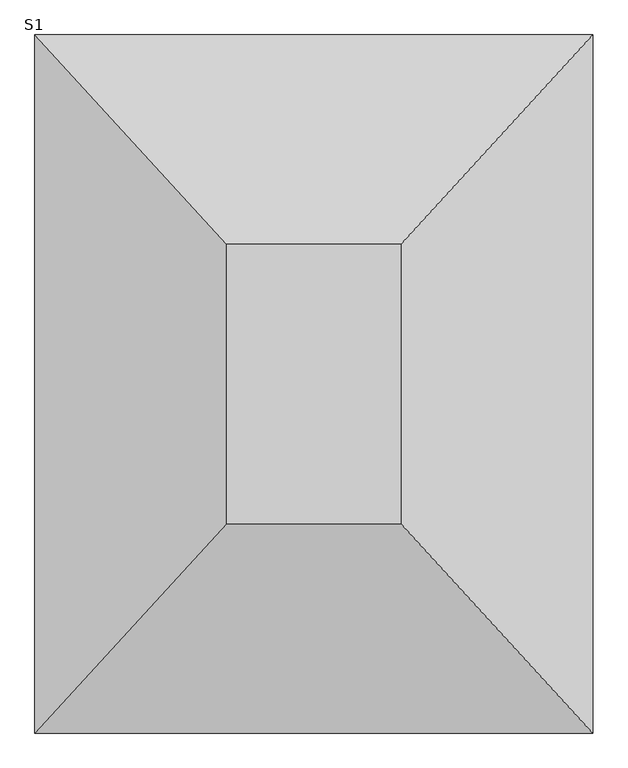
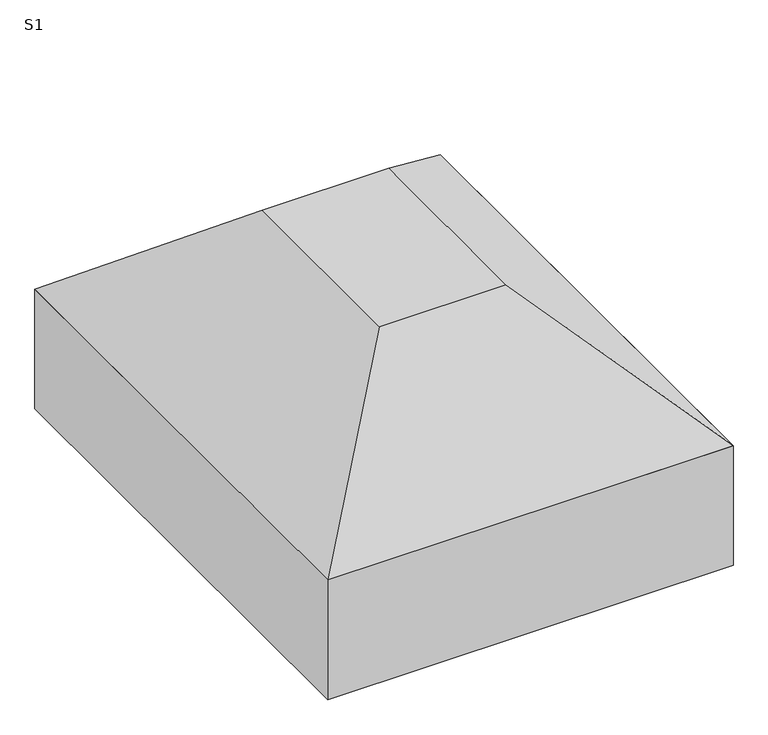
"""IFC4 building model written with IfcOpenShell, lengths in millimetres: fastener geometry, S1."""

import ifcopenshell
import ifcopenshell.guid

model = None  # the IFC model being written
_history = None  # IfcOwnerHistory: only IFC2X3 demands one
_inside = {}  # id of a spatial element -> (the spatial element, [elements in it])
_under = {}  # id of a project, library or spatial element -> (it, [spatial elements below it])
_declared = {}  # id of a project -> (the project, [libraries it declares])
_typed = {}  # id of a type object -> (the type object, [elements of that type])
_made_of = {}  # id of a material, layer set ... -> (it, [elements and type objects made of it])


def new_model(schema):
    """Start an empty IFC model of exactly this schema.

    Asked for "IFC4X3", IfcOpenShell would pick the latest addendum, in which some entities
    have other attributes; the version numbers below select the first issue.
    IFC2X3 requires an IfcOwnerHistory on every rooted entity: one is made here for all.
    """
    global model, _history
    if schema == "IFC4X3":
        model = ifcopenshell.file(schema_version=(4, 3, 0, 0))
    else:
        model = ifcopenshell.file(schema=schema)
    _inside.clear()
    _under.clear()
    _declared.clear()
    _typed.clear()
    _made_of.clear()
    _history = None
    if model.schema == "IFC2X3":
        org = make("IfcOrganization", Name="unknown")
        user = make(
            "IfcPersonAndOrganization",
            ThePerson=make("IfcPerson", FamilyName="unknown"),
            TheOrganization=org,
        )
        app = make(
            "IfcApplication",
            ApplicationDeveloper=org,
            Version="unknown",
            ApplicationFullName="unknown",
            ApplicationIdentifier="unknown",
        )
        _history = make(
            "IfcOwnerHistory",
            OwningUser=user,
            OwningApplication=app,
            ChangeAction="ADDED",
            CreationDate=0,
        )
    return model


def make(cls, **values):
    """One entity of the class cls with the attributes given. An attribute that is None is left unset."""
    return model.create_entity(
        cls, **{name: value for name, value in values.items() if value is not None}
    )


def rooted(cls, **values):
    """An entity with a GlobalId (a new one), such as an element, a storey or a relation."""
    return make(cls, GlobalId=ifcopenshell.guid.new(), OwnerHistory=_history, **values)


def si_unit(unit_type, name, prefix=None):
    """IfcSIUnit, for example si_unit("LENGTHUNIT", "METRE", prefix="MILLI")."""
    return make("IfcSIUnit", UnitType=unit_type, Prefix=prefix, Name=name)


def assignment(units):
    """IfcUnitAssignment: the units of a project."""
    return None if units is None else make("IfcUnitAssignment", Units=units)


def point(xyz):
    """IfcCartesianPoint."""
    return None if xyz is None else make("IfcCartesianPoint", Coordinates=xyz)


def direction(xyz):
    """IfcDirection."""
    return None if xyz is None else make("IfcDirection", DirectionRatios=xyz)


def frame(location, z_axis=None, x_axis=None):
    """IfcAxis2Placement3D, a coordinate frame: its origin and axes. An axis left out is left unset."""
    return make(
        "IfcAxis2Placement3D",
        Location=point(location),
        Axis=direction(z_axis),
        RefDirection=direction(x_axis),
    )


def origin():
    """The frame at (0, 0, 0) with its axes left unset."""
    return frame((0.0, 0.0, 0.0))


def place(relative_to, where):
    """IfcLocalPlacement: puts the frame where relative to a parent placement (None: the world)."""
    return make(
        "IfcLocalPlacement", PlacementRelTo=relative_to, RelativePlacement=where
    )


def context(
    kind, dimensions, precision=None, world=None, true_north=None, identifier=None
):
    """IfcGeometricRepresentationContext, for example the 3D "Model" context."""
    return make(
        "IfcGeometricRepresentationContext",
        ContextIdentifier=identifier,
        ContextType=kind,
        CoordinateSpaceDimension=dimensions,
        Precision=precision,
        WorldCoordinateSystem=world,
        TrueNorth=true_north,
    )


def project(units=None, contexts=None):
    """IfcProject with its units and contexts."""
    return rooted(
        "IfcProject",
        Name="project",
        RepresentationContexts=contexts,
        UnitsInContext=assignment(units),
    )


def spatial(cls, under=None, at=None, **own):
    """A site, building, storey or space (cls), placed at a placement, below another one or the project."""
    s = rooted(cls, ObjectPlacement=at, **own)
    if under is not None:
        _under.setdefault(under.id(), (under, []))[1].append(s)
    return s


def polyline(points):
    """IfcPolyline through the points."""
    return make("IfcPolyline", Points=[point(p) for p in points])


def outline(outer, holes=None, kind="AREA"):
    """IfcArbitraryClosedProfileDef: a profile drawn as a closed curve; with holes, ...WithVoids."""
    if holes is None:
        return make("IfcArbitraryClosedProfileDef", ProfileType=kind, OuterCurve=outer)
    return make(
        "IfcArbitraryProfileDefWithVoids",
        ProfileType=kind,
        OuterCurve=outer,
        InnerCurves=holes,
    )


def extrude(swept, where, along, depth):
    """IfcExtrudedAreaSolid: the profile swept, set in the frame where, extruded along a direction by depth."""
    return make(
        "IfcExtrudedAreaSolid",
        SweptArea=swept,
        Position=where,
        ExtrudedDirection=direction(along),
        Depth=depth,
    )


def faces_of(points, faces, orient=None, outer=None):
    """IfcFace entities. A face is a list of loops; a loop is a list of indices into points, from 0.

    orient and outer hold one flag for each loop. By default every Orientation is true, the
    first loop of a face is its IfcFaceOuterBound and the others are IfcFaceBound.
    """
    made = []
    for i, loops in enumerate(faces):
        bounds = []
        for j, loop in enumerate(loops):
            is_outer = j == 0 if outer is None else outer[i][j]
            bounds.append(
                make(
                    "IfcFaceOuterBound" if is_outer else "IfcFaceBound",
                    Bound=make("IfcPolyLoop", Polygon=[points[k] for k in loop]),
                    Orientation=True if orient is None else orient[i][j],
                )
            )
        made.append(make("IfcFace", Bounds=bounds))
    return made


def faceted_brep(points, faces, orient=None, outer=None, voids=None):
    """IfcFacetedBrep: a solid bounded by flat faces; with voids (closed shells), ...WithVoids."""
    shared = [point(p) for p in points]
    hull = make("IfcClosedShell", CfsFaces=faces_of(shared, faces, orient, outer))
    if voids is None:
        return make("IfcFacetedBrep", Outer=hull)
    return make(
        "IfcFacetedBrepWithVoids",
        Outer=hull,
        Voids=[
            make(cls, CfsFaces=faces_of(shared, fs, o, b)) for cls, fs, o, b in voids
        ],
    )


def shape(context_of_items, identifier, shape_type, items):
    """IfcShapeRepresentation: the items that make up one representation, for example the "Body"."""
    return make(
        "IfcShapeRepresentation",
        ContextOfItems=context_of_items,
        RepresentationIdentifier=identifier,
        RepresentationType=shape_type,
        Items=items,
    )


def source(mapping_origin, context_of_items, identifier, shape_type, items):
    """IfcRepresentationMap: a shape defined once, which mapped items show again and again."""
    return make(
        "IfcRepresentationMap",
        MappingOrigin=mapping_origin,
        MappedRepresentation=shape(context_of_items, identifier, shape_type, items),
    )


def transform(
    local_origin,
    x_axis=None,
    y_axis=None,
    z_axis=None,
    scale=None,
    scale2=None,
    scale3=None,
    uniform=True,
):
    """IfcCartesianTransformationOperator3D, or its non-uniform kind. x_axis, y_axis, z_axis: its Axis1, 2, 3."""
    if uniform:
        return make(
            "IfcCartesianTransformationOperator3D",
            Axis1=direction(x_axis),
            Axis2=direction(y_axis),
            LocalOrigin=point(local_origin),
            Scale=scale,
            Axis3=direction(z_axis),
        )
    return make(
        "IfcCartesianTransformationOperator3DnonUniform",
        Axis1=direction(x_axis),
        Axis2=direction(y_axis),
        LocalOrigin=point(local_origin),
        Scale=scale,
        Axis3=direction(z_axis),
        Scale2=scale2,
        Scale3=scale3,
    )


def mapped(mapping_source, mapping_target):
    """IfcMappedItem: shows the shape of a source again, moved by a transform."""
    return make(
        "IfcMappedItem", MappingSource=mapping_source, MappingTarget=mapping_target
    )


def made_of(thing, what):
    """Note that an element or type object is made of a material, layer set ...; save() writes the relation."""
    if what is not None:
        _made_of.setdefault(what.id(), (what, []))[1].append(thing)
    return thing


def element(
    cls,
    number,
    at=None,
    inside=None,
    cuts=None,
    type_object=None,
    material=None,
    context=None,
    identifier="Body",
    shape_type=None,
    held_by="IfcProductDefinitionShape",
    body=None,
    shapes=None,
    **own,
):
    """One element of the class cls, such as IfcWall. Its Tag is "e" and its number.

    at: its placement. inside: the storey or other place that contains it. cuts: it is an
    opening in that element (IfcRelVoidsElement). A single representation is given by context,
    identifier, shape_type and body (its items); several are given by shapes. held_by: the class
    of the entity that holds the representations. save() writes the other relations.
    """
    e = rooted(cls, Tag="e%d" % number, ObjectPlacement=at, **own)
    if body is not None:
        shapes = [shape(context, identifier, shape_type, body)]
    if shapes is not None:
        e.Representation = make(held_by, Representations=shapes)
    if inside is not None:
        _inside.setdefault(inside.id(), (inside, []))[1].append(e)
    if cuts is not None:
        rooted(
            "IfcRelVoidsElement", RelatingBuildingElement=cuts, RelatedOpeningElement=e
        )
    if type_object is not None:
        _typed.setdefault(type_object.id(), (type_object, []))[1].append(e)
    return made_of(e, material)


def aggregate(whole, parts):
    """IfcRelAggregates: a whole, such as a stair, and the parts it consists of."""
    return rooted("IfcRelAggregates", RelatingObject=whole, RelatedObjects=parts)


def save(model, path):
    """Write the relations noted so far, then the file.

    IfcRelAggregates (storeys below a building ...), IfcRelContainedInSpatialStructure (elements
    in a storey), IfcRelDefinesByType, IfcRelAssociatesMaterial and IfcRelDeclares: one each for
    every whole, place, type object, material and project.
    """
    for whole, parts in _under.values():
        aggregate(whole, parts)
    for where, things in _inside.values():
        rooted(
            "IfcRelContainedInSpatialStructure",
            RelatedElements=things,
            RelatingStructure=where,
        )
    for kind, things in _typed.values():
        rooted("IfcRelDefinesByType", RelatedObjects=things, RelatingType=kind)
    for what, things in _made_of.values():
        rooted("IfcRelAssociatesMaterial", RelatedObjects=things, RelatingMaterial=what)
    for by, libraries in _declared.values():
        rooted("IfcRelDeclares", RelatingContext=by, RelatedDefinitions=libraries)
    model.write(path)


def s1_6223030e(model_context):
    return source(origin(), model_context, "Body", "SolidModel", [
        faceted_brep([(-75.0, 0.0, 0.0), (-325.0, 0.0, 0.0), (-325.0, -400.0, 0.0), (-75.0, -400.0, 0.0), (200.0, 300.0, -250.0), (200.0, -700.0, -250.0), (-600.0, -700.0, -250.0), (-600.0, 300.0, -250.0)], [[[0, 1, 2, 3]], [[4, 5, 6, 7]], [[4, 7, 1, 0]], [[7, 6, 2, 1]], [[6, 5, 3, 2]], [[5, 4, 0, 3]]]),
        extrude(outline(polyline([(200.0, 300.0), (200.0, -700.0), (-600.0, -700.0), (-600.0, 300.0), (200.0, 300.0)])), frame((0.0, 0.0, -500.0), z_axis=(0.0, 0.0, 1.0), x_axis=(1.0, 0.0, 0.0)), (0.0, 0.0, 1.0), 250.0),
    ])


if __name__ == "__main__":
    model = new_model("IFC4")
    model_context = context("Model", 3, world=origin())
    ifc_project = project(units=[si_unit("LENGTHUNIT", "METRE", prefix="MILLI")], contexts=[model_context])
    site = spatial("IfcSite", under=ifc_project)
    building = spatial("IfcBuilding", under=site)
    placement = place(None, origin())
    s1_shape = s1_6223030e(model_context)
    element("IfcFastener", 1, ObjectType="S1", at=placement, inside=building, context=model_context, shape_type="MappedRepresentation", body=[
        mapped(s1_shape, transform((0.0, 0.0, 0.0), x_axis=(1.0, 0.0, 0.0), y_axis=(0.0, 1.0, 0.0), z_axis=(0.0, 0.0, 1.0))),
    ])
    save(model, "model.ifc")
